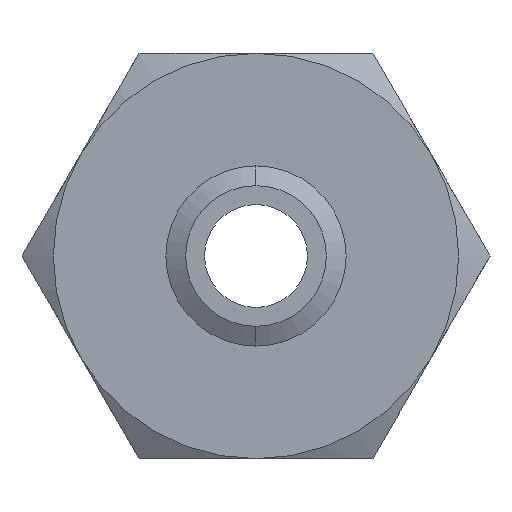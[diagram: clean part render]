
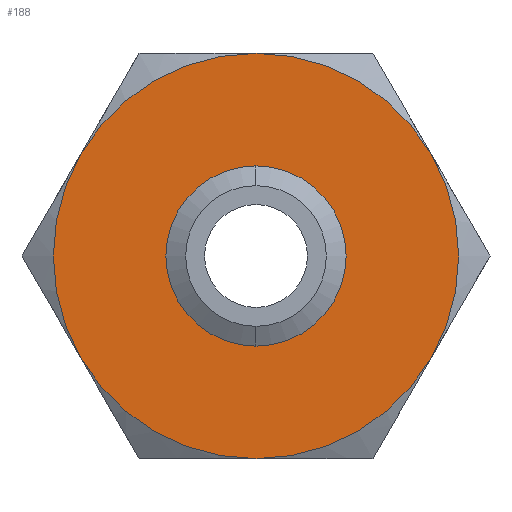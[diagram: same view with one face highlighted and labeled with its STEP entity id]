
A CAD part, front view. The second image highlights one B-rep face of the part: STEP entity #188.
In plain terms, the highlighted planar face has unit normal (0, -1, 0).
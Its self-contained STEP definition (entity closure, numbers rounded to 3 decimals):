
#120 = ORIENTED_EDGE ( 'NONE', *, *, #121, .F. ) ;
#121 = EDGE_CURVE ( 'NONE', #161, #173, #550, .T. ) ;
#122 = EDGE_LOOP ( 'NONE', ( #123, #124 ) ) ;
#123 = ORIENTED_EDGE ( 'NONE', *, *, #1857, .F. ) ;
#124 = ORIENTED_EDGE ( 'NONE', *, *, #125, .F. ) ;
#125 = EDGE_CURVE ( 'NONE', #1856, #1858, #545, .T. ) ;
#157 = EDGE_LOOP ( 'NONE', ( #158, #162, #165, #168, #171, #120 ) ) ;
#158 = ORIENTED_EDGE ( 'NONE', *, *, #159, .F. ) ;
#159 = EDGE_CURVE ( 'NONE', #160, #161, #587, .T. ) ;
#160 = VERTEX_POINT ( 'NONE', #649 ) ;
#161 = VERTEX_POINT ( 'NONE', #648 ) ;
#162 = ORIENTED_EDGE ( 'NONE', *, *, #163, .F. ) ;
#163 = EDGE_CURVE ( 'NONE', #164, #160, #647, .T. ) ;
#164 = VERTEX_POINT ( 'NONE', #641 ) ;
#165 = ORIENTED_EDGE ( 'NONE', *, *, #166, .F. ) ;
#166 = EDGE_CURVE ( 'NONE', #167, #164, #640, .T. ) ;
#167 = VERTEX_POINT ( 'NONE', #635 ) ;
#168 = ORIENTED_EDGE ( 'NONE', *, *, #169, .F. ) ;
#169 = EDGE_CURVE ( 'NONE', #170, #167, #634, .T. ) ;
#170 = VERTEX_POINT ( 'NONE', #629 ) ;
#171 = ORIENTED_EDGE ( 'NONE', *, *, #172, .F. ) ;
#172 = EDGE_CURVE ( 'NONE', #173, #170, #627, .T. ) ;
#173 = VERTEX_POINT ( 'NONE', #628 ) ;
#188 = ADVANCED_FACE ( 'NONE', ( #665, #664 ), #663, .F. ) ;
#542 = DIRECTION ( 'NONE',  ( 0., 0., -1. ) ) ;
#543 = DIRECTION ( 'NONE',  ( 0., -1., 0. ) ) ;
#544 = AXIS2_PLACEMENT_3D ( 'NONE', #551, #543, #542 ) ;
#545 = CIRCLE ( 'NONE', #544, 8.673 ) ;
#546 = DIRECTION ( 'NONE',  ( 0., 0., 1. ) ) ;
#547 = DIRECTION ( 'NONE',  ( 0., 1., 0. ) ) ;
#548 = CARTESIAN_POINT ( 'NONE',  ( 0., 0., 0. ) ) ;
#549 = AXIS2_PLACEMENT_3D ( 'NONE', #548, #547, #546 ) ;
#550 = CIRCLE ( 'NONE', #549, 25. ) ;
#551 = CARTESIAN_POINT ( 'NONE',  ( 0., 0., 0. ) ) ;
#587 = CIRCLE ( 'NONE', #652, 25. ) ;
#598 = CARTESIAN_POINT ( 'NONE',  ( 0., 0., 0. ) ) ;
#623 = DIRECTION ( 'NONE',  ( 0., 0., 1. ) ) ;
#624 = DIRECTION ( 'NONE',  ( 0., 1., 0. ) ) ;
#625 = CARTESIAN_POINT ( 'NONE',  ( 0., 0., 0. ) ) ;
#626 = AXIS2_PLACEMENT_3D ( 'NONE', #625, #624, #623 ) ;
#627 = CIRCLE ( 'NONE', #626, 25. ) ;
#628 = CARTESIAN_POINT ( 'NONE',  ( 21.651, 0., -12.5 ) ) ;
#629 = CARTESIAN_POINT ( 'NONE',  ( 0., 0., -25. ) ) ;
#630 = DIRECTION ( 'NONE',  ( 0., 0., 1. ) ) ;
#631 = DIRECTION ( 'NONE',  ( 0., 1., 0. ) ) ;
#632 = CARTESIAN_POINT ( 'NONE',  ( 0., 0., 0. ) ) ;
#633 = AXIS2_PLACEMENT_3D ( 'NONE', #632, #631, #630 ) ;
#634 = CIRCLE ( 'NONE', #633, 25. ) ;
#635 = CARTESIAN_POINT ( 'NONE',  ( -21.651, 0., -12.5 ) ) ;
#636 = DIRECTION ( 'NONE',  ( 0., 0., 1. ) ) ;
#637 = DIRECTION ( 'NONE',  ( 0., 1., 0. ) ) ;
#638 = CARTESIAN_POINT ( 'NONE',  ( 0., 0., 0. ) ) ;
#639 = AXIS2_PLACEMENT_3D ( 'NONE', #638, #637, #636 ) ;
#640 = CIRCLE ( 'NONE', #639, 25. ) ;
#641 = CARTESIAN_POINT ( 'NONE',  ( -21.651, 0., 12.5 ) ) ;
#643 = DIRECTION ( 'NONE',  ( 0., 0., 1. ) ) ;
#644 = DIRECTION ( 'NONE',  ( 0., 1., 0. ) ) ;
#645 = CARTESIAN_POINT ( 'NONE',  ( 0., 0., 0. ) ) ;
#646 = AXIS2_PLACEMENT_3D ( 'NONE', #645, #644, #643 ) ;
#647 = CIRCLE ( 'NONE', #646, 25. ) ;
#648 = CARTESIAN_POINT ( 'NONE',  ( 21.651, 0., 12.5 ) ) ;
#649 = CARTESIAN_POINT ( 'NONE',  ( 0., 0., 25. ) ) ;
#650 = DIRECTION ( 'NONE',  ( 0., 0., 1. ) ) ;
#651 = DIRECTION ( 'NONE',  ( 0., 1., 0. ) ) ;
#652 = AXIS2_PLACEMENT_3D ( 'NONE', #598, #651, #650 ) ;
#658 = DIRECTION ( 'NONE',  ( 0., 0., 1. ) ) ;
#659 = DIRECTION ( 'NONE',  ( 0., 1., 0. ) ) ;
#661 = CARTESIAN_POINT ( 'NONE',  ( 14.434, 0., -25. ) ) ;
#662 = AXIS2_PLACEMENT_3D ( 'NONE', #661, #659, #658 ) ;
#663 = PLANE ( 'NONE',  #662 ) ;
#664 = FACE_BOUND ( 'NONE', #122, .T. ) ;
#665 = FACE_OUTER_BOUND ( 'NONE', #157, .T. ) ;
#1414 = CARTESIAN_POINT ( 'NONE',  ( 0., 0., -8.673 ) ) ;
#1415 = DIRECTION ( 'NONE',  ( 0., 0., -1. ) ) ;
#1416 = DIRECTION ( 'NONE',  ( 0., -1., 0. ) ) ;
#1417 = CARTESIAN_POINT ( 'NONE',  ( 0., 0., 0. ) ) ;
#1418 = AXIS2_PLACEMENT_3D ( 'NONE', #1417, #1416, #1415 ) ;
#1419 = CIRCLE ( 'NONE', #1418, 8.673 ) ;
#1420 = CARTESIAN_POINT ( 'NONE',  ( 0., 0., 8.673 ) ) ;
#1856 = VERTEX_POINT ( 'NONE', #1420 ) ;
#1857 = EDGE_CURVE ( 'NONE', #1858, #1856, #1419, .T. ) ;
#1858 = VERTEX_POINT ( 'NONE', #1414 ) ;
